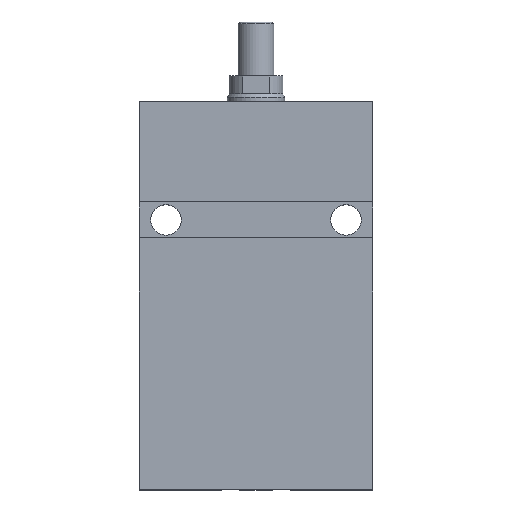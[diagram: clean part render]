
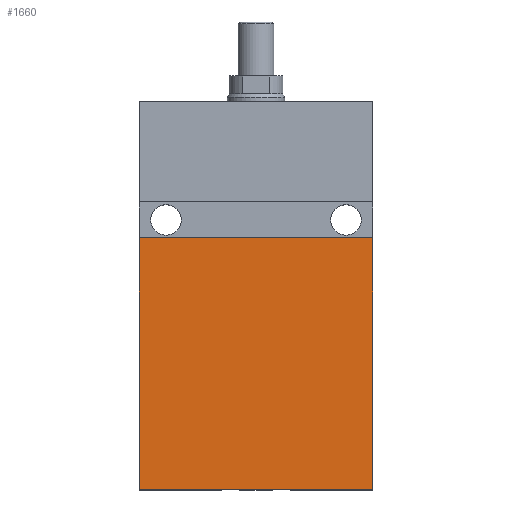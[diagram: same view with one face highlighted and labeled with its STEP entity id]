
A CAD part, top view. The second image highlights one B-rep face of the part: STEP entity #1660.
In plain terms, the highlighted planar face has unit normal (0, 0, 1).
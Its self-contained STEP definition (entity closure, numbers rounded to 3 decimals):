
#65 = CARTESIAN_POINT ( 'NONE',  ( -32.5, 70., 22.5 ) ) ;
#92 = CARTESIAN_POINT ( 'NONE',  ( 32.5, 70., 22.5 ) ) ;
#146 = DIRECTION ( 'NONE',  ( 1., 0., 0. ) ) ;
#203 = CARTESIAN_POINT ( 'NONE',  ( -32.5, 58., 22.5 ) ) ;
#240 = ORIENTED_EDGE ( 'NONE', *, *, #2306, .T. ) ;
#351 = VECTOR ( 'NONE', #146, 1000. ) ;
#400 = EDGE_CURVE ( 'NONE', #956, #996, #1018, .T. ) ;
#423 = FACE_OUTER_BOUND ( 'NONE', #2036, .T. ) ;
#657 = DIRECTION ( 'NONE',  ( -1., 0., 0. ) ) ;
#837 = EDGE_CURVE ( 'NONE', #2174, #956, #1093, .T. ) ;
#866 = DIRECTION ( 'NONE',  ( 0., -1., 0. ) ) ;
#874 = LINE ( 'NONE', #203, #2176 ) ;
#956 = VERTEX_POINT ( 'NONE', #92 ) ;
#996 = VERTEX_POINT ( 'NONE', #1681 ) ;
#1018 = LINE ( 'NONE', #1452, #2454 ) ;
#1093 = LINE ( 'NONE', #65, #2250 ) ;
#1128 = LINE ( 'NONE', #1905, #351 ) ;
#1225 = CARTESIAN_POINT ( 'NONE',  ( -32.5, 70., 22.5 ) ) ;
#1361 = DIRECTION ( 'NONE',  ( 1., 0., 0. ) ) ;
#1377 = ORIENTED_EDGE ( 'NONE', *, *, #2509, .T. ) ;
#1452 = CARTESIAN_POINT ( 'NONE',  ( 32.5, 58., 22.5 ) ) ;
#1468 = DIRECTION ( 'NONE',  ( 0., -1., 0. ) ) ;
#1660 = ADVANCED_FACE ( 'NONE', ( #423 ), #1723, .F. ) ;
#1681 = CARTESIAN_POINT ( 'NONE',  ( 32.5, 0., 22.5 ) ) ;
#1723 = PLANE ( 'NONE',  #1887 ) ;
#1887 = AXIS2_PLACEMENT_3D ( 'NONE', #2338, #2329, #657 ) ;
#1905 = CARTESIAN_POINT ( 'NONE',  ( -32.5, 0., 22.5 ) ) ;
#1977 = CARTESIAN_POINT ( 'NONE',  ( -32.5, 0., 22.5 ) ) ;
#2036 = EDGE_LOOP ( 'NONE', ( #2510, #2799, #1377, #240 ) ) ;
#2174 = VERTEX_POINT ( 'NONE', #1225 ) ;
#2176 = VECTOR ( 'NONE', #866, 1000. ) ;
#2250 = VECTOR ( 'NONE', #1361, 1000. ) ;
#2306 = EDGE_CURVE ( 'NONE', #2597, #996, #1128, .T. ) ;
#2329 = DIRECTION ( 'NONE',  ( 0., 0., -1. ) ) ;
#2338 = CARTESIAN_POINT ( 'NONE',  ( -32.5, 58., 22.5 ) ) ;
#2454 = VECTOR ( 'NONE', #1468, 1000. ) ;
#2509 = EDGE_CURVE ( 'NONE', #2174, #2597, #874, .T. ) ;
#2510 = ORIENTED_EDGE ( 'NONE', *, *, #400, .F. ) ;
#2597 = VERTEX_POINT ( 'NONE', #1977 ) ;
#2799 = ORIENTED_EDGE ( 'NONE', *, *, #837, .F. ) ;
